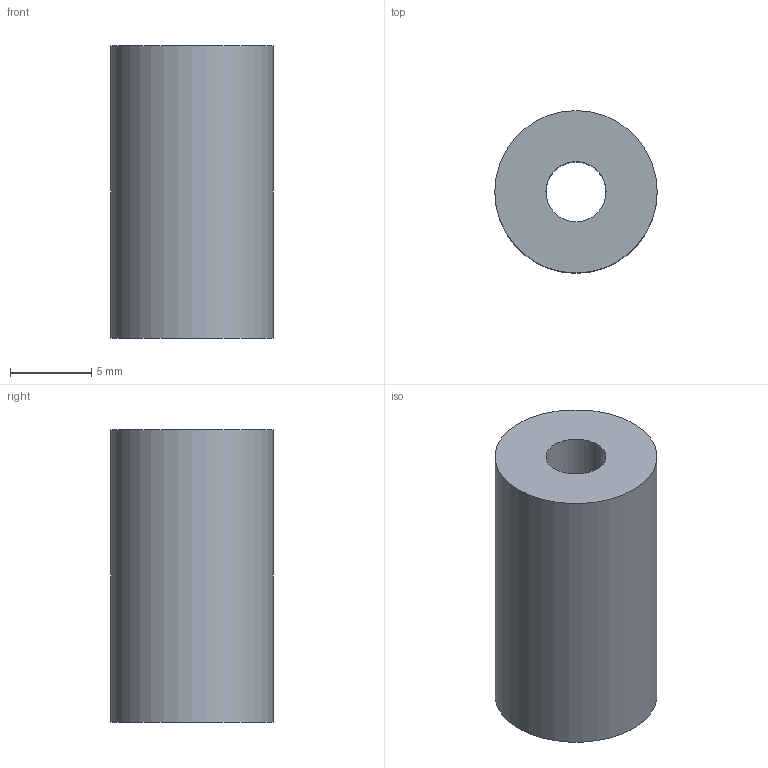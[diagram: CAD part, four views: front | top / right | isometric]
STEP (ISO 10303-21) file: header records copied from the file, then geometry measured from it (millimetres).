
FILE_DESCRIPTION(/* description */ (''),/* implementation_level */ '2;1');
FILE_NAME(/* name */ 'D:\FIRST\FTC KOP 2017\FTC 2017 KOP\Tetrix STEP\Miscellaneous\Tetrix_39376_Spacer.ipt.step',/* time_stamp */ '2017-01-03T09:05:39-08:00',/* author */ ('Autodesk Inc.'),/* organization */ ('Autodesk Inc.'),/* preprocessor_version */ 'ST-DEVELOPER v16.5',/* originating_system */ 'Autodesk Inventor 2017',/* authorisation */ '');
FILE_SCHEMA (('AUTOMOTIVE_DESIGN { 1 0 10303 214 3 1 1 }'));
Length unit declared in the file: inch
Products named in the file (1): Tetrix_739376_Spacer
Bounding box: 10 x 10 x 18 mm (x, y, z)
Volume: 1220.2 mm3; surface area: 910.3 mm2
Topology: 1 solids, 1 shells, 4 faces, 6 edges, 4 vertices
Faces by surface type: plane 2, cylinder 2
Full cylindrical faces by diameter (mm): 3.7 x1, 10 x1
Entity records: 120 total; most frequent: DIRECTION 18, CARTESIAN_POINT 13, AXIS2_PLACEMENT_3D 9, EDGE_LOOP 8, ORIENTED_EDGE 8, FACE_BOUND 4, FACE_OUTER_BOUND 4, CIRCLE 4
